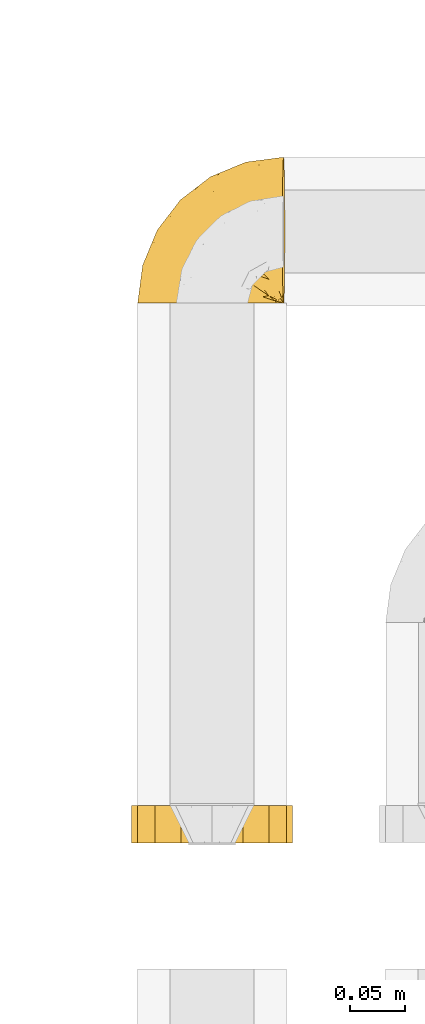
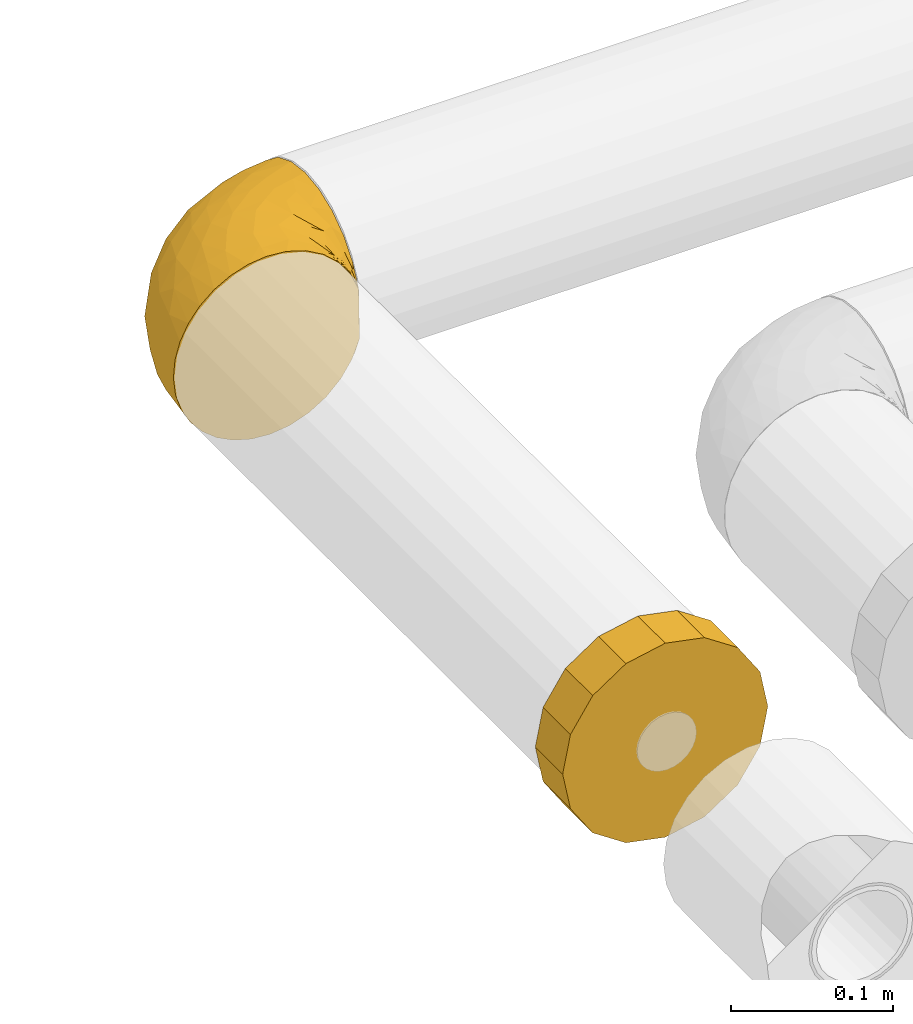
# One storey, part 29 of 156: 2 coverings.
"""IFC2X3 building model written with IfcOpenShell, lengths in millimetres."""

from ifc_helpers import new_model, entity, si_unit, converted_unit, derived_unit, direction, frame, origin_with_axes, place, context, subcontext, project, spatial, open_shell, surface_model, source, transform, mapped, element, save


model = new_model("IFC2X3")

# Units and contexts
model_context = context("Model", 3, precision=0.01, world=frame((0.0, 4.29681676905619e-09, 0.0)), true_north=direction((4.01073788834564e-13, 1.0)))
plan_context = context("Plan", 3, precision=0.01, world=frame((0.0, 4.29681676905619e-09, 0.0)), true_north=direction((4.01073788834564e-13, 1.0)))
body_context = subcontext(model_context, "Body", "Model", "MODEL_VIEW")
ifc_project = project(units=[converted_unit("PLANEANGLEUNIT", "DEGREE", entity("IfcPositiveLengthMeasure", 0.0174532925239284), si_unit("PLANEANGLEUNIT", "RADIAN"), dimensions=[0, 0, 0, 0, 0, 0, 0]), si_unit("AREAUNIT", "SQUARE_METRE"), si_unit("LENGTHUNIT", "METRE", prefix="MILLI"), si_unit("MASSUNIT", "GRAM", prefix="KILO"), si_unit("POWERUNIT", "WATT"), si_unit("PRESSUREUNIT", "PASCAL", prefix="KILO"), si_unit("FORCEUNIT", "NEWTON", prefix="KILO"), si_unit("ELECTRICVOLTAGEUNIT", "VOLT"), si_unit("ELECTRICCURRENTUNIT", "AMPERE"), si_unit("THERMODYNAMICTEMPERATUREUNIT", "DEGREE_CELSIUS"), si_unit("TIMEUNIT", "SECOND"), si_unit("VOLUMEUNIT", "CUBIC_METRE"), derived_unit("LINEARVELOCITYUNIT", [(si_unit("LENGTHUNIT", "METRE"), 1), (si_unit("TIMEUNIT", "SECOND"), -1)]), derived_unit("VOLUMETRICFLOWRATEUNIT", [(si_unit("VOLUMEUNIT", "CUBIC_METRE"), 1), (si_unit("TIMEUNIT", "SECOND"), -1)]), derived_unit("THERMALTRANSMITTANCEUNIT", [(si_unit("POWERUNIT", "WATT"), 1), (si_unit("THERMODYNAMICTEMPERATUREUNIT", "KELVIN"), -1), (si_unit("AREAUNIT", "SQUARE_METRE"), -1)]), derived_unit("SOUNDPRESSUREUNIT", [(si_unit("PRESSUREUNIT", "PASCAL"), 1)])], contexts=[model_context, plan_context])

# Site, building, storey
site_placement = place(None, frame((0.0, -4.29681676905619e-09, 0.0), z_axis=(0.0, 0.0, 1.0), x_axis=(1.0, 0.0, 0.0)))
site = spatial("IfcSite", under=ifc_project, at=site_placement, CompositionType="ELEMENT")
building_placement = place(site_placement, frame((0.0, 4.29681676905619e-09, 0.0), z_axis=(0.0, 0.0, 1.0), x_axis=(1.0, 0.0, 0.0)))
building = spatial("IfcBuilding", under=site, at=building_placement, Name="mc-building", CompositionType="ELEMENT")
storey_placement = place(building_placement, frame((0.0, 0.0, 205200.0), z_axis=(0.0, 0.0, 1.0), x_axis=(1.0, 0.0, 0.0)))
storey = spatial("IfcBuildingStorey", under=building, at=storey_placement, Name="Nivå D + 1,2 m", CompositionType="ELEMENT", Elevation=205200.0)

# Coverings
shared_shape_1 = source(origin_with_axes(), body_context, "Body", "SurfaceModel", [
    surface_model("IfcShellBasedSurfaceModel", [(66.20382, 64.99956, 13.1656), (13.17342, 64.99974, 66.20209), (25.83796, 64.9997, 62.35913), (56.12776, 64.99959, 37.49598), (37.50776, 64.99966, 56.11983), (62.36379, 64.99958, 25.82703), (47.73511, 64.99962, 47.72452), (0.00022, 64.99978, 67.5), (66.20231, 64.99956, -13.1732), (-14.37379, 64.99983, 65.95178), (62.35935, 64.99958, -25.83774), (-28.09129, 64.99988, 61.37685), (56.12004, 64.99959, -37.50754), (-40.51959, 64.99992, 53.98514), (37.4962, 64.99966, -56.12755), (-59.31245, 64.99998, 32.22201), (-51.08832, 64.99995, 44.11588), (47.72474, 64.99962, -47.7349), (-64.81453, 65.0, -18.84935), (-64.81453, 65.0, 18.84935), (67.50022, 64.99956, 0.0), (25.82725, 64.9997, -62.36357), (-40.52217, 64.99992, -53.98321), (-51.09042, 64.99995, -44.11345), (-59.31397, 64.99998, -32.21921), (-28.09421, 64.99988, -61.37551), (-14.37691, 64.99983, -65.95111), (0.00022, 64.99978, -67.5), (13.16582, 64.99974, -66.2036), (-64.99978, 64.81475, -18.84935), (-64.99978, 57.87557, -34.73714), (-64.99978, 33.25277, -58.74099), (-64.99978, 17.19351, -65.27353), (-64.99978, 47.11836, -48.33333), (-64.99978, 64.81475, 18.84935), (-64.99978, 0.0, -67.5), (-64.99978, 57.87557, 34.73714), (-64.99978, -47.72971, -47.72971), (-64.99978, 47.11836, 48.33333), (-64.99978, -33.75, -58.45672), (-64.99978, 33.25277, 58.74099), (-64.99978, -65.19999, -17.47029), (-64.99978, 17.19351, 65.27353), (-64.99978, -58.45672, -33.75), (-64.99978, -67.5, 0.0), (-64.99978, 0.0, 67.5), (-64.99978, -17.47029, -65.19999), (-64.99978, -33.75, 58.45672), (-64.99978, -58.45672, 33.75), (-64.99978, -47.72971, 47.72971), (-64.99978, -65.19999, 17.47029), (-64.99978, -17.47029, 65.19999), (-64.86879, 64.86901, 18.84935), (-64.86879, 64.86901, -18.84935), (-62.35276, 53.22925, -41.88204), (-63.78402, 60.63472, -29.99668), (-59.45897, 54.28288, -41.88204), (-51.69943, 42.79726, -55.00915), (-58.9261, 41.28656, -53.98417), (-64.97467, 64.82515, -18.84935), (-60.9954, 60.00361, -33.50592), (-62.83412, 60.76842, -30.44039), (-64.90154, 64.85544, -18.84935), (-50.8666, 28.04405, -62.52499), (-57.92361, 24.0478, -63.29907), (-50.90148, 14.37919, -66.34141), (-37.08633, 31.39032, -64.04773), (-29.58166, 11.9929, -67.5), (-40.36831, 19.80165, -66.13097), (-55.46354, 1.89687, -67.5), (-54.19121, 53.04137, -46.55034), (-23.48778, 51.53446, -64.03169), (-35.44186, 58.51367, -57.8746), (-1.89669, 55.46355, -67.5), (-19.03792, 19.03798, -67.5), (-28.84082, 40.49019, -64.04556), (-45.93359, 58.13995, -50.54533), (-64.83533, 64.94978, -18.84935), (-43.55462, 44.96691, -57.31563), (-4.94768, 40.12543, -67.5), (-64.85206, 64.9094, -18.84935), (-55.95483, 62.16727, -38.38718), (-59.35268, 60.73166, -34.66089), (-37.17673, 51.3825, -58.29809), (-49.05007, 54.80725, -49.33215), (-11.9928, 29.5817, -67.5), (-64.93429, 64.84188, -18.84935), (-40.12541, 4.94781, -67.5), (-52.74612, 2.4374, -67.5), (-42.51138, -9.52297, -66.2671), (62.9853, 30.70612, 0.0), (60.34872, 32.10964, -19.59988), (7.28216, 26.69222, -65.37446), (17.51586, 46.37897, -64.59456), (25.45064, 30.47754, -59.53215), (-9.86695, -24.12512, -54.51841), (-12.17271, -41.13069, -41.0914), (-38.2653, -37.66767, -53.55135), (-32.07913, -19.65533, -62.36187), (-9.01226, -1.18968, -63.9192), (38.39201, 36.73585, -52.69379), (30.43412, 48.70738, -59.53215), (28.69171, -28.69181, 0.0), (1.25009, -49.74844, 0.0), (13.27414, -37.00885, -22.67013), (38.50332, -14.42104, -16.45737), (49.74844, -1.25026, 0.0), (-26.34525, -2.34013, -66.30486), (-28.99855, -57.16774, -25.83113), (-40.01129, -50.88787, -41.0914), (-40.23848, -63.93246, -12.73065), (-49.48449, -21.90437, -63.35899), (18.34903, -3.39113, -52.18245), (35.49004, 13.4623, -47.52342), (28.03745, -10.89211, -39.04005), (-2.47373, 52.5626, -67.5), (13.31747, 11.06351, -60.42055), (48.33711, 35.26197, -42.82742), (55.58254, 33.90737, -31.82524), (47.19624, 10.97397, -31.82591), (10.54857, -30.74423, -36.21716), (2.0, -27.22639, -46.43078), (-14.7537, -56.30508, -12.67322), (-7.01764, -49.3542, -23.66958), (51.3247, 7.67008, -19.29115), (-30.70633, -62.98519, 0.0), (0.24418, 12.31893, -64.8124), (3.67015, -5.45991, -58.66434), (36.98052, -9.37971, -28.42457), (48.52841, 33.96487, 42.18547), (51.34608, 20.59396, 31.81466), (57.7563, 44.0429, 31.81466), (-28.34096, -60.77085, 14.13005), (-16.26054, -52.66704, 25.83113), (-42.88365, -60.42696, 25.83113), (37.50837, -13.65759, 20.8199), (22.23878, 22.9918, 59.52614), (16.83003, 43.52857, 64.59175), (5.27273, 25.31145, 65.6474), (35.12371, 13.65018, 47.93511), (15.62005, -0.76302, 55.06473), (25.58959, -9.3323, 42.81638), (14.49541, -38.60044, 15.96278), (-5.84628, -51.68876, 14.94012), (39.0394, -2.37873, 32.8776), (-2.14306, -36.32508, 40.18049), (-17.72493, -29.97616, 53.55135), (-34.31645, -49.51181, 41.0914), (-42.65802, -9.03701, 66.36346), (-39.32465, -22.12682, 62.36187), (-52.74612, 2.4374, 67.5), (18.51024, -28.28047, 30.53108), (-42.63763, -38.70785, 53.55135), (-27.58279, -2.4399, 66.40218), (-40.12541, 4.94781, 67.5), (61.41586, 36.47221, 19.59063), (52.44205, 9.85607, 19.09183), (39.29716, 37.63393, 52.17338), (28.75868, 40.82401, 59.5265), (-0.80845, -10.86727, 58.08847), (-25.06932, -14.25062, 63.18685), (-6.08753, 12.63623, 66.07006), (-29.58166, 11.9929, 67.5), (-2.47373, 52.5626, 67.5), (-4.94768, 40.12543, 67.5), (8.13235, 9.85947, 62.04196), (4.6081, -20.53981, 50.05707), (-11.9928, 29.5817, 67.5), (-19.03792, 19.03798, 67.5), (-12.12991, -4.71203, 63.64215), (-55.46354, 1.89687, 67.5), (-51.31029, 50.10802, 50.51456), (-58.83039, 56.0625, 40.3127), (-53.07526, 43.62192, 53.98417), (-61.39647, 53.48595, 41.88204), (-59.33181, 41.18633, 53.98417), (-38.67675, 30.21325, 64.02578), (-40.80822, 18.77839, 66.26938), (-53.18273, 27.23963, 62.52499), (-62.39305, 61.7127, 29.30958), (-62.71972, 60.35035, 31.26741), (-24.35898, 37.3902, 65.60841), (-55.87579, 57.8476, 41.27919), (-48.33568, 52.86996, 50.85177), (-52.15681, 58.33041, 44.75627), (-50.72239, 13.73619, 66.46323), (-63.72082, 60.14875, 30.95628), (-23.37801, 51.8676, 64.03271), (-1.89669, 55.46355, 67.5), (-38.97324, 49.10613, 58.01476), (-36.16911, 55.0608, 58.01476), (-61.49518, 62.05578, 30.08877), (-64.85206, 64.9094, 18.84935), (-46.94631, 59.30381, 49.33434), (-64.83533, 64.94978, 18.84935), (-57.76503, 62.9842, 35.37213), (-59.8702, 62.17046, 32.53462), (-45.4701, 40.87923, 58.33251), (-64.90918, 64.85228, 18.84935), (-64.94956, 64.83555, 18.84935)], [open_shell([[[0, 1, 2]], [[3, 2, 4]], [[0, 2, 5]], [[3, 5, 2]], [[6, 3, 4]], [[1, 0, 7]], [[7, 8, 9]], [[9, 10, 11]], [[11, 12, 13]], [[14, 15, 16]], [[17, 16, 13]], [[18, 19, 15]], [[0, 20, 7]], [[8, 10, 9]], [[11, 10, 12]], [[14, 16, 17]], [[21, 15, 14]], [[17, 13, 12]], [[15, 21, 18]], [[22, 23, 18]], [[24, 18, 23]], [[22, 18, 25]], [[26, 18, 27]], [[25, 18, 26]], [[27, 18, 28]], [[18, 21, 28]], [[8, 7, 20]], [[29, 30, 31]], [[31, 32, 29]], [[31, 30, 33]], [[34, 29, 35]], [[36, 37, 38]], [[39, 36, 34]], [[40, 41, 42]], [[43, 40, 38]], [[42, 44, 45]], [[32, 35, 29]], [[46, 39, 34]], [[36, 39, 37]], [[43, 41, 40]], [[43, 38, 37]], [[41, 44, 42]], [[47, 48, 49]], [[50, 47, 51]], [[47, 50, 48]], [[50, 51, 44]], [[45, 44, 51]], [[46, 34, 35]], [[29, 34, 52]], [[53, 29, 52]], [[19, 18, 52]], [[53, 52, 18]], [[54, 55, 56]], [[57, 58, 56]], [[30, 29, 59]], [[54, 58, 33]], [[60, 61, 62]], [[58, 63, 64]], [[32, 64, 65]], [[66, 67, 68]], [[65, 64, 63]], [[32, 65, 69]], [[56, 70, 57]], [[25, 71, 72]], [[30, 54, 33]], [[26, 27, 73]], [[74, 66, 75]], [[76, 22, 72]], [[22, 76, 23]], [[58, 31, 33]], [[58, 57, 63]], [[77, 18, 24]], [[60, 70, 56]], [[66, 78, 75]], [[79, 71, 73]], [[80, 81, 82]], [[24, 81, 77]], [[26, 73, 71]], [[26, 71, 25]], [[65, 63, 68]], [[71, 83, 72]], [[24, 23, 81]], [[82, 84, 70]], [[57, 66, 63]], [[78, 57, 70]], [[83, 78, 84]], [[59, 55, 30]], [[58, 54, 56]], [[70, 60, 82]], [[78, 70, 84]], [[80, 77, 81]], [[81, 84, 82]], [[75, 83, 71]], [[57, 78, 66]], [[75, 79, 85]], [[55, 59, 86]], [[69, 65, 87]], [[69, 35, 32]], [[68, 63, 66]], [[82, 53, 80]], [[87, 65, 68]], [[61, 56, 55]], [[53, 82, 60]], [[78, 83, 75]], [[76, 72, 83]], [[83, 84, 76]], [[25, 72, 22]], [[84, 81, 76]], [[23, 76, 81]], [[55, 86, 61]], [[30, 55, 54]], [[62, 53, 60]], [[60, 56, 61]], [[61, 86, 62]], [[32, 31, 64]], [[58, 64, 31]], [[67, 66, 74]], [[67, 87, 68]], [[79, 75, 71]], [[85, 74, 75]], [[88, 89, 46]], [[88, 87, 89]], [[8, 90, 91]], [[92, 93, 94]], [[95, 96, 97]], [[95, 98, 99]], [[100, 94, 101]], [[102, 103, 104]], [[102, 105, 106]], [[21, 93, 28]], [[74, 99, 107]], [[10, 8, 91]], [[108, 43, 109]], [[41, 110, 44]], [[105, 102, 104]], [[43, 108, 41]], [[43, 37, 109]], [[39, 97, 37]], [[111, 97, 39]], [[112, 113, 114]], [[115, 27, 28]], [[94, 113, 116]], [[17, 12, 117]], [[100, 17, 117]], [[46, 89, 111]], [[118, 91, 119]], [[101, 93, 21]], [[28, 93, 115]], [[120, 96, 121]], [[122, 110, 108]], [[104, 103, 122]], [[123, 96, 120]], [[106, 105, 124]], [[122, 103, 125]], [[100, 113, 94]], [[124, 90, 106]], [[118, 12, 10]], [[126, 127, 99]], [[8, 20, 90]], [[117, 118, 119]], [[112, 116, 113]], [[92, 79, 93]], [[95, 97, 98]], [[14, 101, 21]], [[109, 97, 96]], [[126, 85, 92]], [[104, 120, 128]], [[91, 124, 119]], [[107, 98, 89]], [[121, 114, 120]], [[92, 116, 126]], [[116, 92, 94]], [[14, 17, 100]], [[93, 101, 94]], [[100, 101, 14]], [[100, 117, 113]], [[117, 119, 113]], [[114, 113, 119]], [[128, 114, 119]], [[114, 128, 120]], [[97, 109, 37]], [[108, 109, 96]], [[46, 35, 88]], [[107, 89, 87]], [[89, 98, 111]], [[107, 87, 67]], [[98, 107, 99]], [[97, 111, 98]], [[39, 46, 111]], [[127, 116, 112]], [[116, 127, 126]], [[110, 122, 125]], [[123, 122, 108]], [[44, 110, 125]], [[108, 110, 41]], [[121, 127, 112]], [[74, 107, 67]], [[95, 99, 127]], [[99, 74, 126]], [[124, 91, 90]], [[96, 123, 108]], [[104, 122, 123]], [[12, 118, 117]], [[10, 91, 118]], [[93, 79, 115]], [[85, 126, 74]], [[85, 79, 92]], [[128, 124, 105]], [[124, 128, 119]], [[104, 128, 105]], [[123, 120, 104]], [[121, 96, 95]], [[127, 121, 95]], [[114, 121, 112]], [[129, 130, 131]], [[44, 125, 132]], [[133, 134, 132]], [[106, 135, 102]], [[136, 137, 138]], [[139, 140, 141]], [[102, 142, 103]], [[143, 142, 133]], [[141, 144, 139]], [[145, 146, 147]], [[148, 51, 149]], [[51, 148, 150]], [[151, 142, 135]], [[152, 149, 47]], [[47, 49, 152]], [[153, 154, 148]], [[139, 144, 130]], [[48, 134, 147]], [[47, 149, 51]], [[102, 135, 142]], [[155, 130, 156]], [[152, 147, 146]], [[129, 6, 157]], [[144, 135, 156]], [[0, 5, 155]], [[6, 4, 157]], [[137, 2, 1]], [[155, 5, 131]], [[20, 0, 90]], [[158, 4, 2]], [[159, 160, 146]], [[48, 147, 49]], [[161, 162, 153]], [[137, 136, 158]], [[48, 50, 134]], [[139, 130, 129]], [[1, 163, 137]], [[156, 90, 155]], [[138, 137, 164]], [[158, 136, 157]], [[90, 0, 155]], [[144, 156, 130]], [[140, 136, 165]], [[3, 131, 5]], [[145, 147, 133]], [[146, 145, 166]], [[151, 141, 145]], [[143, 133, 132]], [[151, 133, 142]], [[166, 141, 140]], [[3, 6, 129]], [[155, 131, 130]], [[129, 131, 3]], [[129, 157, 139]], [[157, 136, 139]], [[140, 139, 136]], [[165, 136, 138]], [[159, 146, 166]], [[161, 167, 168]], [[138, 161, 165]], [[147, 152, 49]], [[149, 152, 146]], [[150, 148, 154]], [[150, 45, 51]], [[153, 160, 169]], [[160, 148, 149]], [[153, 169, 161]], [[135, 106, 156]], [[162, 154, 153]], [[90, 156, 106]], [[151, 135, 144]], [[133, 151, 145]], [[148, 160, 153]], [[146, 160, 149]], [[50, 44, 132]], [[147, 134, 133]], [[50, 132, 134]], [[143, 125, 103]], [[125, 143, 132]], [[103, 142, 143]], [[167, 161, 138]], [[159, 165, 169]], [[161, 168, 162]], [[169, 165, 161]], [[141, 166, 145]], [[159, 166, 140]], [[165, 159, 140]], [[159, 169, 160]], [[4, 158, 157]], [[2, 137, 158]], [[163, 1, 7]], [[163, 164, 137]], [[151, 144, 141]], [[138, 164, 167]], [[42, 45, 170]], [[171, 172, 173]], [[173, 174, 175]], [[175, 38, 40]], [[176, 177, 162]], [[176, 173, 178]], [[172, 179, 180]], [[181, 176, 168]], [[175, 40, 178]], [[182, 183, 184]], [[172, 174, 173]], [[174, 36, 38]], [[178, 185, 177]], [[186, 174, 180]], [[187, 188, 9]], [[189, 184, 183]], [[11, 13, 190]], [[52, 191, 192]], [[181, 187, 189]], [[190, 13, 193]], [[15, 19, 194]], [[187, 181, 164]], [[40, 42, 178]], [[195, 16, 15]], [[9, 188, 7]], [[193, 13, 16]], [[171, 182, 172]], [[189, 187, 190]], [[191, 182, 196]], [[11, 187, 9]], [[185, 170, 154]], [[34, 36, 186]], [[189, 183, 197]], [[173, 175, 178]], [[164, 188, 187]], [[174, 38, 175]], [[181, 189, 197]], [[181, 168, 167]], [[52, 179, 191]], [[179, 182, 191]], [[177, 185, 154]], [[170, 185, 42]], [[42, 185, 178]], [[162, 168, 176]], [[178, 177, 176]], [[177, 154, 162]], [[197, 171, 173]], [[183, 182, 171]], [[173, 176, 197]], [[197, 176, 181]], [[197, 183, 171]], [[184, 189, 193]], [[195, 184, 193]], [[196, 194, 192]], [[16, 195, 193]], [[15, 194, 195]], [[182, 184, 196]], [[184, 195, 196]], [[194, 196, 195]], [[192, 191, 196]], [[179, 172, 182]], [[52, 198, 179]], [[199, 186, 180]], [[180, 179, 198]], [[199, 180, 198]], [[174, 172, 180]], [[34, 186, 199]], [[36, 174, 186]], [[190, 187, 11]], [[193, 189, 190]], [[164, 181, 167]]])]),
])
covering_1_placement = place(storey_placement, frame((330080.29562, 465599.02233, 4230.80695), z_axis=(-0.0165739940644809, 0.0, 0.999862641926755), x_axis=(-0.999862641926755, 0.0, -0.0165739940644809)))
element("IfcCovering", 1, at=covering_1_placement, inside=storey, Name="BI10T - Cellegummi 18-32 mm kalde rør", PredefinedType="INSULATION", context=body_context, shape_type="MappedRepresentation", body=[
    mapped(shared_shape_1, transform((0.0, 0.0, 0.0), scale=1.0)),
])
shared_shape_2 = source(origin_with_axes(), body_context, "Body", "SurfaceModel", [
    surface_model("IfcShellBasedSurfaceModel", [(0.0, -51.6895, -51.6895), (0.0, -67.53559, -27.97416), (0.0, -27.97416, -67.53559), (0.0, 0.0, -73.1), (33.8, 67.53559, 27.97416), (33.8, 51.6895, 51.6895), (33.8, 27.97416, 67.53559), (33.8, 67.53559, -27.97416), (33.8, 73.1, 0.0), (33.8, 51.6895, -51.6895), (33.8, 27.97416, -67.53559), (0.0, 73.1, 0.0), (0.0, 67.53559, -27.97416), (0.0, 51.6895, -51.6895), (0.0, 27.97416, -67.53559), (33.8, -67.53559, -27.97416), (0.0, -70.3178, -13.98708), (33.8, -70.3696, -13.72663), (0.0, -73.1, 0.0), (33.8, -51.6895, -51.6895), (0.0, -59.61255, -39.83183), (33.8, -73.1, 0.0), (33.8, -59.61255, -39.83183), (33.8, -39.83183, -59.61255), (0.0, -13.98708, -70.3178), (33.8, 0.0, -73.1), (33.8, -13.98708, -70.3178), (0.0, -39.83183, -59.61255), (33.8, -27.97416, -67.53559), (0.0, 13.98708, -70.3178), (33.8, 13.72663, -70.3696), (0.0, 39.83183, -59.61255), (33.8, 39.83183, -59.61255), (33.8, 59.61255, -39.83183), (0.0, 70.3178, -13.98708), (33.8, 70.3178, -13.98708), (0.0, 59.61255, -39.83183), (0.0, 70.3178, 13.98708), (0.0, 67.53559, 27.97416), (33.8, 70.3696, 13.72663), (0.0, 59.61255, 39.83183), (0.0, 51.6895, 51.6895), (33.8, 59.61255, 39.83183), (33.8, 39.83183, 59.61255), (0.0, 13.98708, 70.3178), (33.8, 0.0, 73.1), (33.8, 13.98708, 70.3178), (0.0, 0.0, 73.1), (0.0, 27.97416, 67.53559), (0.0, 39.83183, 59.61255), (33.8, -27.97416, 67.53559), (0.0, -13.98708, 70.3178), (0.0, -27.97416, 67.53559), (33.8, -13.72663, 70.3696), (33.8, -51.6895, 51.6895), (0.0, -39.83183, 59.61255), (0.0, -51.6895, 51.6895), (33.8, -39.83183, 59.61255), (33.8, -59.61255, 39.83183), (0.0, -70.3178, 13.98708), (33.8, -70.3178, 13.98708), (0.0, -67.53559, 27.97416), (0.0, -59.61255, 39.83183), (33.8, -67.53559, 27.97416)], [open_shell([[[0, 1, 2]], [[3, 2, 1]], [[4, 5, 6]], [[7, 8, 9]], [[10, 9, 8]], [[11, 12, 13]], [[13, 14, 11]], [[15, 16, 1]], [[17, 18, 16]], [[19, 20, 0]], [[15, 17, 16]], [[18, 17, 21]], [[22, 1, 20]], [[0, 23, 19]], [[24, 25, 26]], [[25, 24, 3]], [[26, 2, 24]], [[23, 0, 27]], [[22, 15, 1]], [[27, 2, 28]], [[27, 28, 23]], [[26, 28, 2]], [[20, 19, 22]], [[10, 29, 14]], [[30, 3, 29]], [[9, 31, 13]], [[10, 30, 29]], [[3, 30, 25]], [[32, 14, 31]], [[13, 33, 9]], [[34, 8, 35]], [[8, 34, 11]], [[35, 12, 34]], [[33, 13, 36]], [[32, 10, 14]], [[36, 12, 7]], [[36, 7, 33]], [[35, 7, 12]], [[31, 9, 32]], [[4, 37, 38]], [[39, 11, 37]], [[5, 40, 41]], [[4, 39, 37]], [[11, 39, 8]], [[42, 38, 40]], [[41, 43, 5]], [[44, 45, 46]], [[45, 44, 47]], [[46, 48, 44]], [[43, 41, 49]], [[42, 4, 38]], [[49, 48, 6]], [[49, 6, 43]], [[46, 6, 48]], [[40, 5, 42]], [[50, 51, 52]], [[53, 47, 51]], [[54, 55, 56]], [[50, 53, 51]], [[47, 53, 45]], [[57, 52, 55]], [[56, 58, 54]], [[59, 21, 60]], [[21, 59, 18]], [[60, 61, 59]], [[58, 56, 62]], [[57, 50, 52]], [[62, 61, 63]], [[62, 63, 58]], [[60, 63, 61]], [[55, 54, 57]], [[15, 50, 54]], [[63, 21, 54]], [[4, 50, 15]], [[6, 45, 4]], [[45, 50, 4]], [[15, 54, 21]], [[8, 15, 19]], [[28, 25, 19]], [[8, 19, 25]], [[8, 25, 10]], [[15, 8, 4]], [[47, 48, 41]], [[47, 41, 52]], [[1, 18, 41]], [[56, 52, 61]], [[18, 61, 52]], [[52, 41, 18]], [[41, 38, 1]], [[11, 14, 3]], [[1, 11, 3]], [[11, 1, 38]]])]),
])
covering_2_placement = place(storey_placement, frame((330080.29176, 465043.86795, 4230.59033000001), z_axis=(0.0, -0.000194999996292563, 0.999999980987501), x_axis=(0.0, 0.999999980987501, 0.000194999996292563)))
element("IfcCovering", 2, at=covering_2_placement, inside=storey, Name="BI10T - Cellegummi 18-32 mm kalde rør", PredefinedType="INSULATION", context=body_context, shape_type="MappedRepresentation", body=[
    mapped(shared_shape_2, transform((0.0, 0.0, 0.0), scale=1.0)),
])

save(model, "model.ifc")
